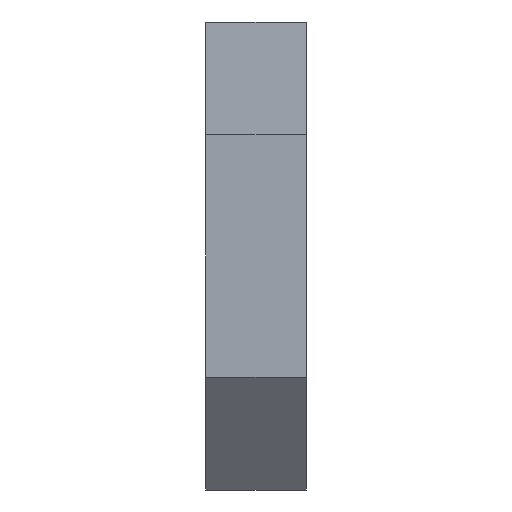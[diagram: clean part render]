
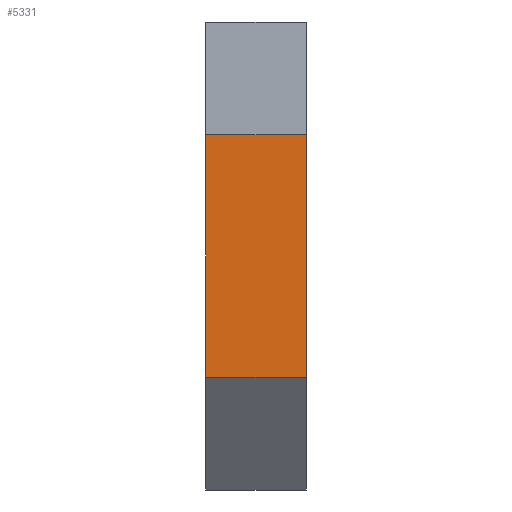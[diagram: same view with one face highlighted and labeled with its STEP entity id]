
A CAD part, front view. The second image highlights one B-rep face of the part: STEP entity #5331.
In plain terms, the highlighted planar face has unit normal (0, -1, 0).
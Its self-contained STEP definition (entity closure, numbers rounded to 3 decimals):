
#90=DIRECTION('',(0.,0.,-1.));
#91=VECTOR('',#90,29.);
#92=CARTESIAN_POINT('',(-6.,-400.,14.5));
#93=LINE('',#92,#91);
#883=DIRECTION('',(1.,0.,0.));
#884=VECTOR('',#883,12.);
#885=CARTESIAN_POINT('',(-6.,-400.,-14.5));
#886=LINE('',#885,#884);
#887=DIRECTION('',(1.,0.,0.));
#888=VECTOR('',#887,12.);
#889=CARTESIAN_POINT('',(-6.,-400.,14.5));
#890=LINE('',#889,#888);
#920=DIRECTION('',(0.,0.,-1.));
#921=VECTOR('',#920,29.);
#922=CARTESIAN_POINT('',(6.,-400.,14.5));
#923=LINE('',#922,#921);
#3959=CARTESIAN_POINT('',(-6.,-400.,14.5));
#3960=VERTEX_POINT('',#3959);
#3961=CARTESIAN_POINT('',(-6.,-400.,-14.5));
#3962=VERTEX_POINT('',#3961);
#3975=CARTESIAN_POINT('',(6.,-400.,14.5));
#3976=VERTEX_POINT('',#3975);
#3977=CARTESIAN_POINT('',(6.,-400.,-14.5));
#3978=VERTEX_POINT('',#3977);
#5318=CARTESIAN_POINT('',(-6.,-400.,14.5));
#5319=DIRECTION('',(0.,-1.,0.));
#5320=DIRECTION('',(0.,0.,-1.));
#5321=AXIS2_PLACEMENT_3D('',#5318,#5319,#5320);
#5322=PLANE('',#5321);
#5323=ORIENTED_EDGE('',*,*,#4888,.F.);
#5325=ORIENTED_EDGE('',*,*,#5324,.T.);
#5327=ORIENTED_EDGE('',*,*,#5326,.T.);
#5328=ORIENTED_EDGE('',*,*,#5310,.F.);
#5329=EDGE_LOOP('',(#5323,#5325,#5327,#5328));
#5330=FACE_OUTER_BOUND('',#5329,.F.);
#4888=EDGE_CURVE('',#3960,#3962,#93,.T.);
#5310=EDGE_CURVE('',#3962,#3978,#886,.T.);
#5324=EDGE_CURVE('',#3960,#3976,#890,.T.);
#5326=EDGE_CURVE('',#3976,#3978,#923,.T.);
#5331=ADVANCED_FACE('',(#5330),#5322,.T.);
